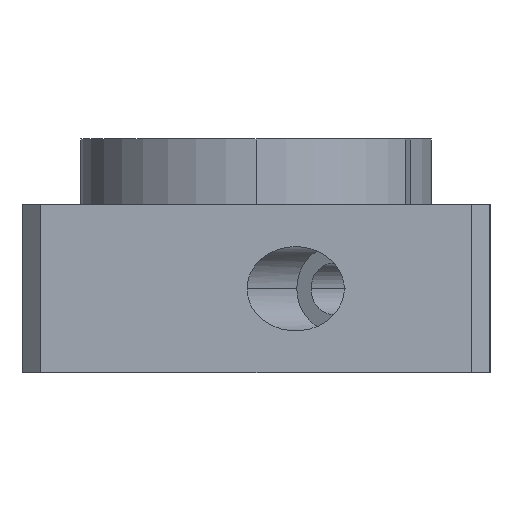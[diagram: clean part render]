
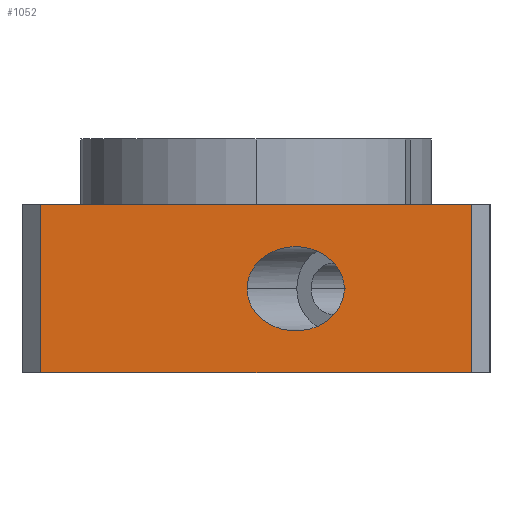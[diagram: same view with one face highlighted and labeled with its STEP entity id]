
A CAD part, left-side view. The second image highlights one B-rep face of the part: STEP entity #1052.
In plain terms, the highlighted planar face has unit normal (-1, 0, 0).
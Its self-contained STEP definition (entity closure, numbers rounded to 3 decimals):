
#81 = ORIENTED_EDGE ( 'NONE', *, *, #123, .T. ) ;
#98 = CARTESIAN_POINT ( 'NONE',  ( -50., 46., -25. ) ) ;
#102 = DIRECTION ( 'NONE',  ( 0., 0., 1. ) ) ;
#119 = VERTEX_POINT ( 'NONE', #881 ) ;
#123 = EDGE_CURVE ( 'NONE', #1204, #1137, #974, .T. ) ;
#155 = CARTESIAN_POINT ( 'NONE',  ( -50., -18.865, -7. ) ) ;
#212 = PLANE ( 'NONE',  #262 ) ;
#235 = LINE ( 'NONE', #609, #625 ) ;
#262 = AXIS2_PLACEMENT_3D ( 'NONE', #1182, #986, #493 ) ;
#277 =( BOUNDED_CURVE ( )  B_SPLINE_CURVE ( 3, ( #733, #1031, #450, #443 ),
 .UNSPECIFIED., .F., .T. ) 
 B_SPLINE_CURVE_WITH_KNOTS ( ( 4, 4 ),
 ( 3.142, 6.283 ),
 .UNSPECIFIED. ) 
 CURVE ( )  GEOMETRIC_REPRESENTATION_ITEM ( )  RATIONAL_B_SPLINE_CURVE ( ( 1., 0.333, 0.333, 1. ) ) 
 REPRESENTATION_ITEM ( '' )  );
#283 =( BOUNDED_CURVE ( )  B_SPLINE_CURVE ( 3, ( #396, #412, #978, #481 ),
 .UNSPECIFIED., .F., .T. ) 
 B_SPLINE_CURVE_WITH_KNOTS ( ( 4, 4 ),
 ( 0., 3.142 ),
 .UNSPECIFIED. ) 
 CURVE ( )  GEOMETRIC_REPRESENTATION_ITEM ( )  RATIONAL_B_SPLINE_CURVE ( ( 1., 0.333, 0.333, 1. ) ) 
 REPRESENTATION_ITEM ( '' )  );
#289 = EDGE_CURVE ( 'NONE', #119, #735, #235, .T. ) ;
#296 = DIRECTION ( 'NONE',  ( 0., -1., 0. ) ) ;
#321 = FACE_BOUND ( 'NONE', #846, .T. ) ;
#343 = ORIENTED_EDGE ( 'NONE', *, *, #574, .T. ) ;
#363 = EDGE_CURVE ( 'NONE', #889, #1189, #277, .T. ) ;
#378 = VECTOR ( 'NONE', #296, 1000. ) ;
#396 = CARTESIAN_POINT ( 'NONE',  ( -50., 1.92, -7. ) ) ;
#403 = ORIENTED_EDGE ( 'NONE', *, *, #363, .T. ) ;
#409 = CARTESIAN_POINT ( 'NONE',  ( -50., -46., 25. ) ) ;
#412 = CARTESIAN_POINT ( 'NONE',  ( -50., 1.92, 11. ) ) ;
#443 = CARTESIAN_POINT ( 'NONE',  ( -50., 1.92, -7. ) ) ;
#450 = CARTESIAN_POINT ( 'NONE',  ( -50., 1.92, -25. ) ) ;
#481 = CARTESIAN_POINT ( 'NONE',  ( -50., -18.865, -7. ) ) ;
#493 = DIRECTION ( 'NONE',  ( 0., 1., 0. ) ) ;
#536 = ORIENTED_EDGE ( 'NONE', *, *, #723, .F. ) ;
#543 = CARTESIAN_POINT ( 'NONE',  ( -50., 50., -25. ) ) ;
#574 = EDGE_CURVE ( 'NONE', #735, #1204, #953, .T. ) ;
#609 = CARTESIAN_POINT ( 'NONE',  ( -50., 46., 25. ) ) ;
#625 = VECTOR ( 'NONE', #1010, 1000. ) ;
#686 = VECTOR ( 'NONE', #102, 1000. ) ;
#697 = FACE_OUTER_BOUND ( 'NONE', #1122, .T. ) ;
#723 = EDGE_CURVE ( 'NONE', #119, #1137, #985, .T. ) ;
#733 = CARTESIAN_POINT ( 'NONE',  ( -50., -18.865, -7. ) ) ;
#735 = VERTEX_POINT ( 'NONE', #98 ) ;
#827 = ORIENTED_EDGE ( 'NONE', *, *, #289, .T. ) ;
#842 = ORIENTED_EDGE ( 'NONE', *, *, #983, .T. ) ;
#846 = EDGE_LOOP ( 'NONE', ( #403, #842 ) ) ;
#881 = CARTESIAN_POINT ( 'NONE',  ( -50., 46., 11. ) ) ;
#889 = VERTEX_POINT ( 'NONE', #155 ) ;
#905 = CARTESIAN_POINT ( 'NONE',  ( -50., -46., 11. ) ) ;
#953 = LINE ( 'NONE', #543, #1055 ) ;
#974 = LINE ( 'NONE', #409, #686 ) ;
#975 = CARTESIAN_POINT ( 'NONE',  ( -50., 1.92, -7. ) ) ;
#978 = CARTESIAN_POINT ( 'NONE',  ( -50., -18.865, 11. ) ) ;
#983 = EDGE_CURVE ( 'NONE', #1189, #889, #283, .T. ) ;
#985 = LINE ( 'NONE', #1152, #378 ) ;
#986 = DIRECTION ( 'NONE',  ( 1., 0., 0. ) ) ;
#1010 = DIRECTION ( 'NONE',  ( 0., 0., -1. ) ) ;
#1031 = CARTESIAN_POINT ( 'NONE',  ( -50., -18.865, -25. ) ) ;
#1052 = ADVANCED_FACE ( 'NONE', ( #321, #697 ), #212, .F. ) ;
#1055 = VECTOR ( 'NONE', #1131, 1000. ) ;
#1122 = EDGE_LOOP ( 'NONE', ( #343, #81, #536, #827 ) ) ;
#1131 = DIRECTION ( 'NONE',  ( 0., -1., 0. ) ) ;
#1137 = VERTEX_POINT ( 'NONE', #905 ) ;
#1152 = CARTESIAN_POINT ( 'NONE',  ( -50., 50., 11. ) ) ;
#1182 = CARTESIAN_POINT ( 'NONE',  ( -50., 50., 25. ) ) ;
#1189 = VERTEX_POINT ( 'NONE', #975 ) ;
#1204 = VERTEX_POINT ( 'NONE', #1259 ) ;
#1259 = CARTESIAN_POINT ( 'NONE',  ( -50., -46., -25. ) ) ;
